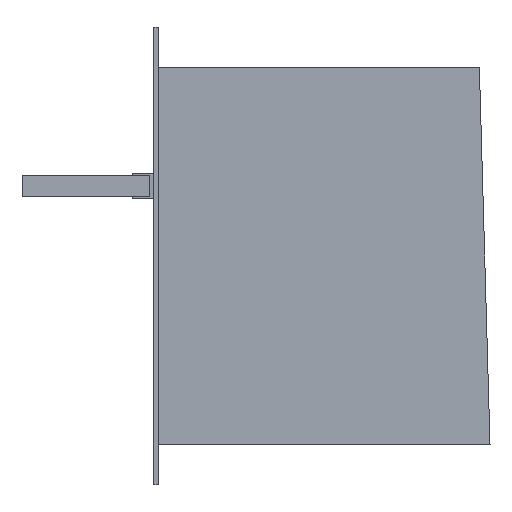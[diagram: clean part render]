
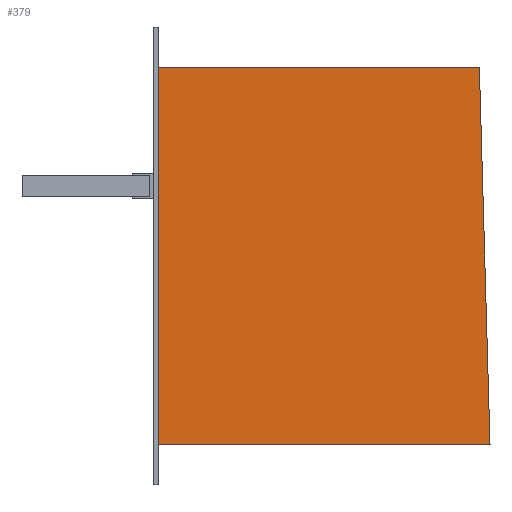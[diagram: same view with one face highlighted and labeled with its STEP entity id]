
A CAD part, left-side view. The second image highlights one B-rep face of the part: STEP entity #379.
In plain terms, the highlighted planar face has unit normal (-1, 0, 0).
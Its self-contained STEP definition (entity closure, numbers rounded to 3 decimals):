
#41 = ORIENTED_EDGE ( 'NONE', *, *, #880, .T. ) ;
#72 = VERTEX_POINT ( 'NONE', #1823 ) ;
#105 = EDGE_CURVE ( 'NONE', #112, #72, #1093, .T. ) ;
#112 = VERTEX_POINT ( 'NONE', #1081 ) ;
#205 = AXIS2_PLACEMENT_3D ( 'NONE', #1043, #281, #441 ) ;
#221 = LINE ( 'NONE', #849, #897 ) ;
#281 = DIRECTION ( 'NONE',  ( 1., 0., 0. ) ) ;
#303 = EDGE_CURVE ( 'NONE', #72, #1395, #549, .T. ) ;
#350 = ORIENTED_EDGE ( 'NONE', *, *, #1280, .T. ) ;
#379 = ADVANCED_FACE ( 'NONE', ( #1471 ), #582, .F. ) ;
#394 = DIRECTION ( 'NONE',  ( 0., 1., 0. ) ) ;
#441 = DIRECTION ( 'NONE',  ( 0., 0., -1. ) ) ;
#522 = VERTEX_POINT ( 'NONE', #1443 ) ;
#549 = LINE ( 'NONE', #1908, #1022 ) ;
#582 = PLANE ( 'NONE',  #205 ) ;
#631 = CARTESIAN_POINT ( 'NONE',  ( -1441., -151., 88.5 ) ) ;
#638 = DIRECTION ( 'NONE',  ( 0., 0.028, 1. ) ) ;
#816 = DIRECTION ( 'NONE',  ( 0., 0., -1. ) ) ;
#849 = CARTESIAN_POINT ( 'NONE',  ( -1441., 0., 88.5 ) ) ;
#880 = EDGE_CURVE ( 'NONE', #1395, #522, #221, .T. ) ;
#897 = VECTOR ( 'NONE', #816, 1000. ) ;
#963 = LINE ( 'NONE', #1005, #1628 ) ;
#1005 = CARTESIAN_POINT ( 'NONE',  ( -1441., 0., -88.5 ) ) ;
#1022 = VECTOR ( 'NONE', #394, 1000. ) ;
#1043 = CARTESIAN_POINT ( 'NONE',  ( -1441., 2., 107.5 ) ) ;
#1081 = CARTESIAN_POINT ( 'NONE',  ( -1441., -156., -88.5 ) ) ;
#1093 = LINE ( 'NONE', #631, #1713 ) ;
#1165 = CARTESIAN_POINT ( 'NONE',  ( -1441., 0., 88.5 ) ) ;
#1253 = ORIENTED_EDGE ( 'NONE', *, *, #105, .T. ) ;
#1280 = EDGE_CURVE ( 'NONE', #522, #112, #963, .T. ) ;
#1395 = VERTEX_POINT ( 'NONE', #1165 ) ;
#1443 = CARTESIAN_POINT ( 'NONE',  ( -1441., 0., -88.5 ) ) ;
#1471 = FACE_OUTER_BOUND ( 'NONE', #1696, .T. ) ;
#1518 = ORIENTED_EDGE ( 'NONE', *, *, #303, .T. ) ;
#1570 = DIRECTION ( 'NONE',  ( 0., -1., 0. ) ) ;
#1628 = VECTOR ( 'NONE', #1570, 1000. ) ;
#1696 = EDGE_LOOP ( 'NONE', ( #350, #1253, #1518, #41 ) ) ;
#1713 = VECTOR ( 'NONE', #638, 1000. ) ;
#1823 = CARTESIAN_POINT ( 'NONE',  ( -1441., -151., 88.5 ) ) ;
#1908 = CARTESIAN_POINT ( 'NONE',  ( -1441., 0., 88.5 ) ) ;
